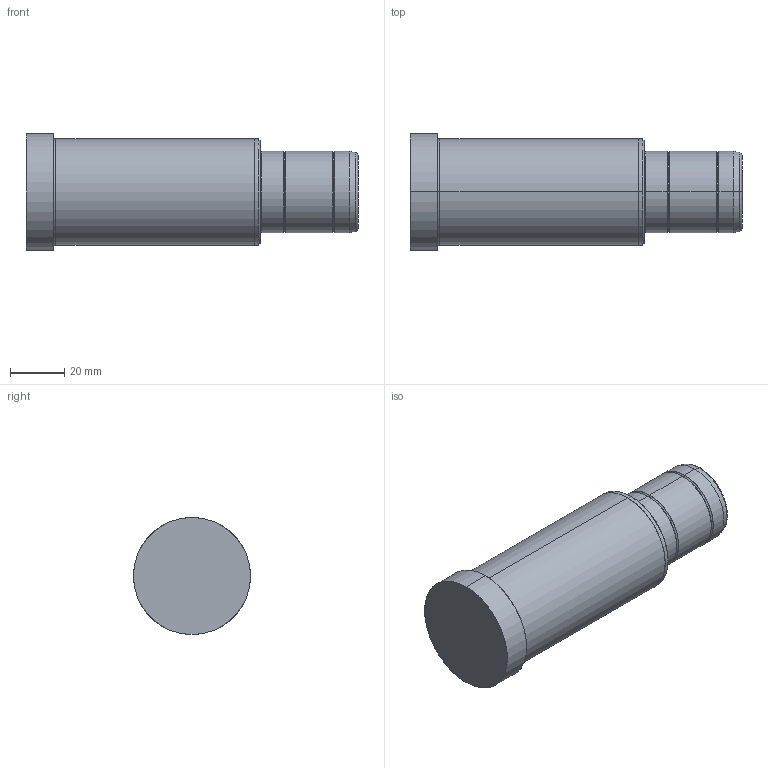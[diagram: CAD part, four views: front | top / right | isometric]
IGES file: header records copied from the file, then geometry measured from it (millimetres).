
Start section: SolidWorks IGES file using analytic representation for surfaces
Global section: file name: C:\Documents and Settings\kalite-mail\Desktop\IGS\D02\30\D02 - 30x86x36.IGS; native system: SolidWorks 2008; preprocessor: SolidWorks 2008; author: kalite-mail; date: 080617.093357; units: millimetre
Bounding box: 122 x 43 x 43 mm (x, y, z)
Surface area: 16919.9 mm2 (no closed solid volume)
Topology: 0 solids, 0 shells, 36 faces, 728 edges, 728 vertices
Faces by surface type: bspline 18, revolution 18
